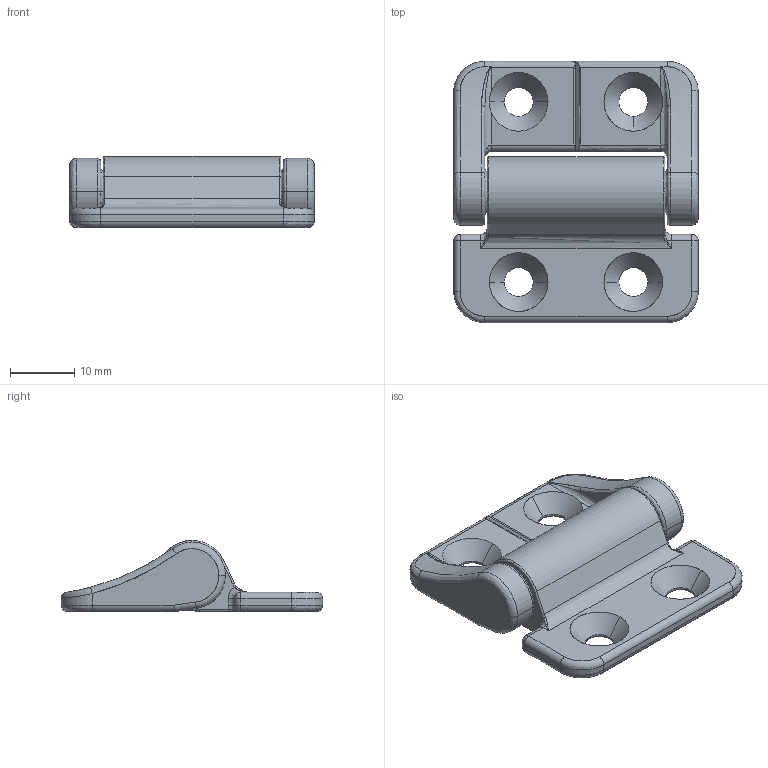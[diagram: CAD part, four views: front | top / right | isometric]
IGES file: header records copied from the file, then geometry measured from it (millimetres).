
Start section: SolidWorks IGES file using analytic representation for surfaces
Global section: file name: G:\RELEASED\FINALS\28-XXX PHC CSink\28-0XXAD PHC Hinge.IGS; native system: SolidWorks 2015; preprocessor: SolidWorks 2015; author: hmanderson; date: 150909.135743; units: millimetre
Bounding box: 38 x 40.6 x 11.05 mm (x, y, z)
Surface area: 6756.2 mm2 (no closed solid volume)
Topology: 0 solids, 0 shells, 928 faces, 9629 edges, 9616 vertices
Faces by surface type: revolution 474, bspline 454
